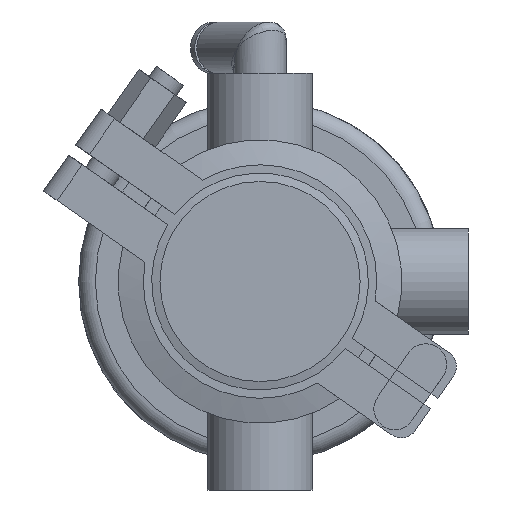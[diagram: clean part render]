
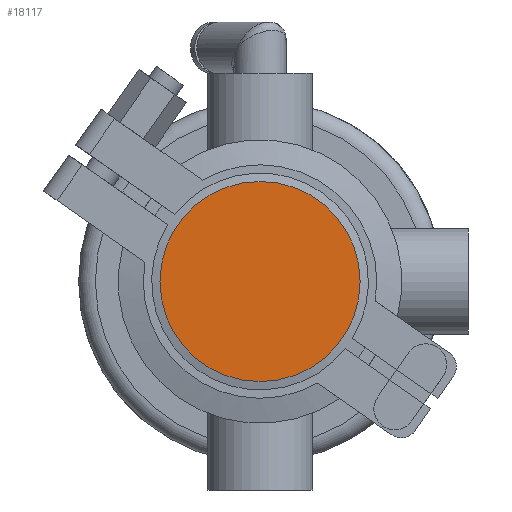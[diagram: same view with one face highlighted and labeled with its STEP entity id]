
A CAD part, front view. The second image highlights one B-rep face of the part: STEP entity #18117.
In plain terms, the highlighted planar face has unit normal (0, -1, 0).
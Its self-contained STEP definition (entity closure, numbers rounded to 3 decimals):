
#4051 = DIRECTION ( 'NONE',  ( 0., 0., -1. ) ) ;
#4350 = PLANE ( 'NONE',  #19908 ) ;
#5910 = DIRECTION ( 'NONE',  ( 0., -1., 0. ) ) ;
#6585 = VERTEX_POINT ( 'NONE', #9709 ) ;
#8718 = CIRCLE ( 'NONE', #19276, 24. ) ;
#8728 = DIRECTION ( 'NONE',  ( 0., 0., 1. ) ) ;
#9593 = ORIENTED_EDGE ( 'NONE', *, *, #11565, .F. ) ;
#9709 = CARTESIAN_POINT ( 'NONE',  ( 0., 0., 24. ) ) ;
#10598 = FACE_OUTER_BOUND ( 'NONE', #16523, .T. ) ;
#11565 = EDGE_CURVE ( 'NONE', #6585, #6585, #8718, .T. ) ;
#13588 = CARTESIAN_POINT ( 'NONE',  ( 0., 0., 0. ) ) ;
#13810 = DIRECTION ( 'NONE',  ( 0., 1., 0. ) ) ;
#16523 = EDGE_LOOP ( 'NONE', ( #9593 ) ) ;
#18117 = ADVANCED_FACE ( 'NONE', ( #10598 ), #4350, .T. ) ;
#18141 = CARTESIAN_POINT ( 'NONE',  ( -24., 0., 0. ) ) ;
#19276 = AXIS2_PLACEMENT_3D ( 'NONE', #13588, #13810, #8728 ) ;
#19908 = AXIS2_PLACEMENT_3D ( 'NONE', #18141, #5910, #4051 ) ;
